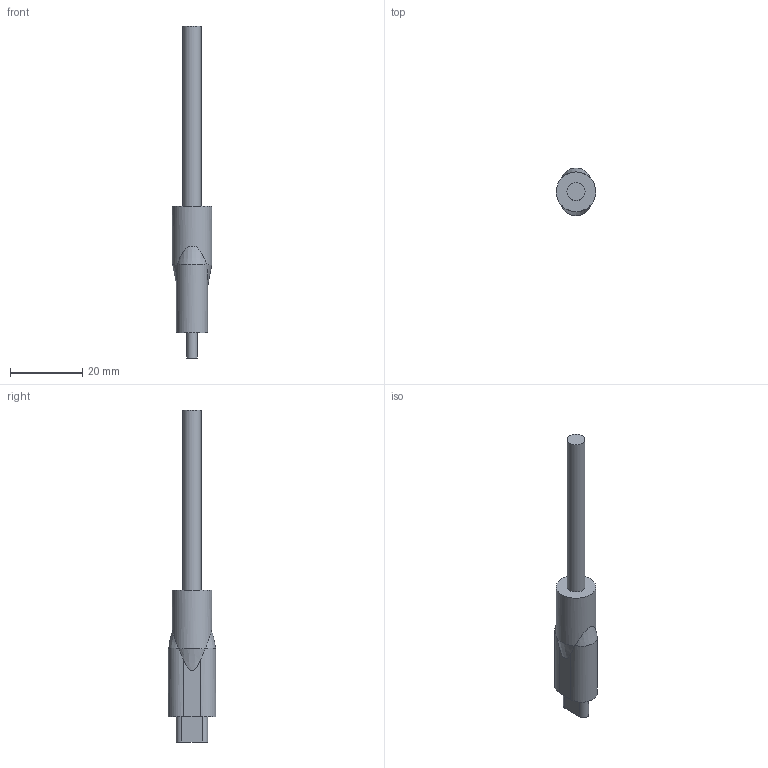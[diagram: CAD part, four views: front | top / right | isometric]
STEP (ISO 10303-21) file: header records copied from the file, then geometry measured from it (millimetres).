
FILE_DESCRIPTION(('FreeCAD Model'),'2;1');
FILE_NAME('Open CASCADE Shape Model','2026-06-03T13:43:03',(''),(''), 'Open CASCADE STEP processor 7.8','FreeCAD','Unknown');
FILE_SCHEMA(('AUTOMOTIVE_DESIGN { 1 0 10303 214 1 1 1 1 }'));
Length unit declared in the file: millimetre
Products named in the file (1): USB31-CMPCF-XXXX_M
Bounding box: 11 x 13.2 x 92 mm (x, y, z)
Volume: 4449.1 mm3; surface area: 2522.7 mm2
Topology: 1 solids, 1 shells, 28 faces, 68 edges, 45 vertices
Faces by surface type: plane 15, cylinder 8, cone 5
Full cylindrical faces by diameter (mm): 5 x1, 11 x1
Entity records: 1008 total; most frequent: CARTESIAN_POINT 315, DIRECTION 145, ORIENTED_EDGE 136, EDGE_CURVE 68, AXIS2_PLACEMENT_3D 58, VERTEX_POINT 45, FACE_BOUND 31, EDGE_LOOP 31
